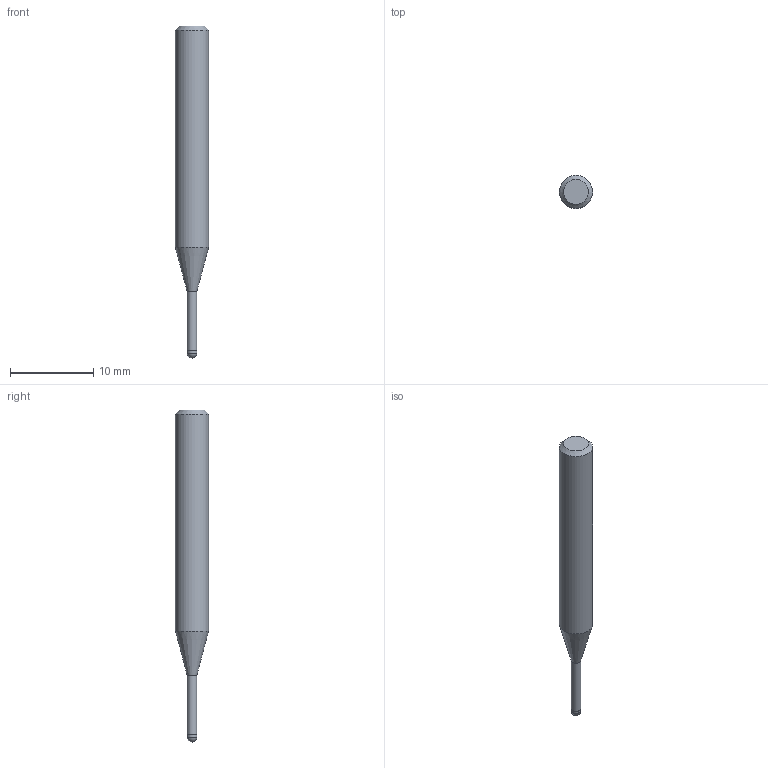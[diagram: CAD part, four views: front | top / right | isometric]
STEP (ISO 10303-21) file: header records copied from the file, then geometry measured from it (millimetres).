
FILE_DESCRIPTION((''),'2;1');
FILE_NAME('C:\Users\nsx150\AppData\Local\Temp\Mastercam 2021\QT8KEW0Y7J\TEMP.step','2021-04-23T11:21:16',(''),(''),'STEP Write','Mastercam 2021 ... CNC Software, Inc.','');
FILE_SCHEMA(('AUTOMOTIVE_DESIGN'));
Length unit declared in the file: millimetre
Products named in the file (1): None
Bounding box: 4 x 4 x 40 mm (x, y, z)
Volume: 372.5 mm3; surface area: 419.6 mm2
Topology: 2 solids, 2 shells, 9 faces, 14 edges, 8 vertices
Faces by surface type: plane 3, cylinder 3, cone 2, sphere 1
Full cylindrical faces by diameter (mm): 1.15 x1, 1.2 x1, 4 x1
Entity records: 211 total; most frequent: DIRECTION 36, CARTESIAN_POINT 25, AXIS2_PLACEMENT_3D 18, ORIENTED_EDGE 14, EDGE_LOOP 14, STYLED_ITEM 12, ADVANCED_FACE 9, FACE_BOUND 8
